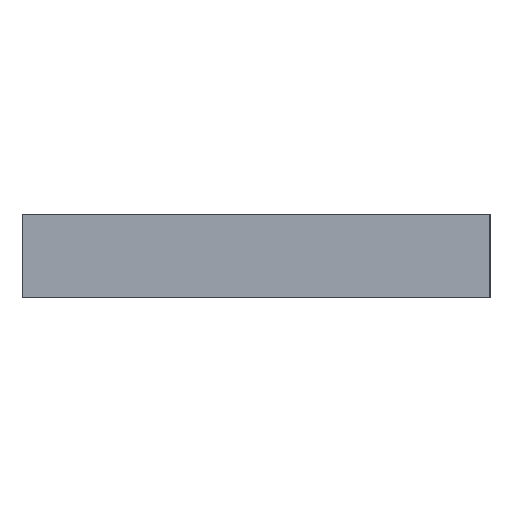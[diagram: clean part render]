
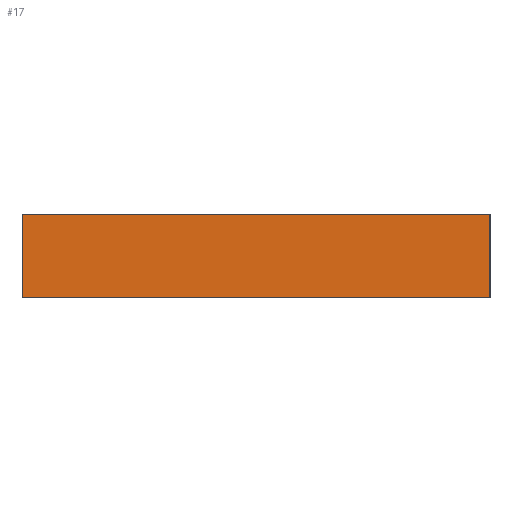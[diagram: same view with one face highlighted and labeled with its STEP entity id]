
A CAD part, left-side view. The second image highlights one B-rep face of the part: STEP entity #17.
In plain terms, the highlighted planar face has unit normal (-1, 0, 0).
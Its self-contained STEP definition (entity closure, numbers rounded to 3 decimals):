
#17 = ADVANCED_FACE('',(#18),#52,.F.);
#18 = FACE_BOUND('',#19,.F.);
#19 = EDGE_LOOP('',(#20,#30,#38,#46));
#20 = ORIENTED_EDGE('',*,*,#21,.F.);
#21 = EDGE_CURVE('',#22,#24,#26,.T.);
#22 = VERTEX_POINT('',#23);
#23 = CARTESIAN_POINT('',(-21.8,-7.725,108.138));
#24 = VERTEX_POINT('',#25);
#25 = CARTESIAN_POINT('',(-21.8,-7.725,109.738));
#26 = LINE('',#27,#28);
#27 = CARTESIAN_POINT('',(-21.8,-7.725,108.138));
#28 = VECTOR('',#29,1.);
#29 = DIRECTION('',(0.,0.,1.));
#30 = ORIENTED_EDGE('',*,*,#31,.T.);
#31 = EDGE_CURVE('',#22,#32,#34,.T.);
#32 = VERTEX_POINT('',#33);
#33 = CARTESIAN_POINT('',(-21.8,1.275,108.138));
#34 = LINE('',#35,#36);
#35 = CARTESIAN_POINT('',(-21.8,-7.725,108.138));
#36 = VECTOR('',#37,1.);
#37 = DIRECTION('',(-0.,1.,0.));
#38 = ORIENTED_EDGE('',*,*,#39,.T.);
#39 = EDGE_CURVE('',#32,#40,#42,.T.);
#40 = VERTEX_POINT('',#41);
#41 = CARTESIAN_POINT('',(-21.8,1.275,109.738));
#42 = LINE('',#43,#44);
#43 = CARTESIAN_POINT('',(-21.8,1.275,108.138));
#44 = VECTOR('',#45,1.);
#45 = DIRECTION('',(0.,0.,1.));
#46 = ORIENTED_EDGE('',*,*,#47,.F.);
#47 = EDGE_CURVE('',#24,#40,#48,.T.);
#48 = LINE('',#49,#50);
#49 = CARTESIAN_POINT('',(-21.8,-7.725,109.738));
#50 = VECTOR('',#51,1.);
#51 = DIRECTION('',(-0.,1.,0.));
#52 = PLANE('',#53);
#53 = AXIS2_PLACEMENT_3D('',#54,#55,#56);
#54 = CARTESIAN_POINT('',(-21.8,-7.725,108.138));
#55 = DIRECTION('',(1.,0.,-0.));
#56 = DIRECTION('',(0.,0.,1.));
